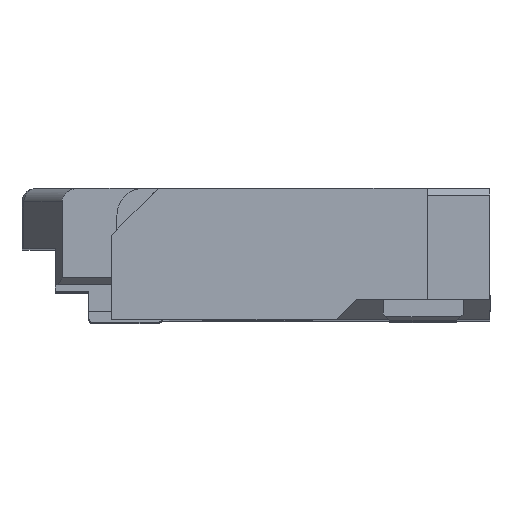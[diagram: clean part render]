
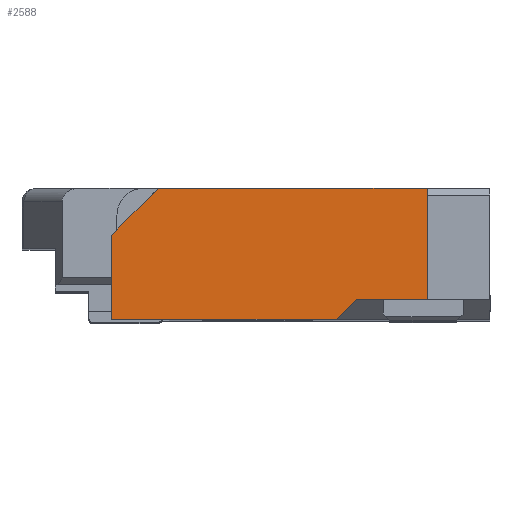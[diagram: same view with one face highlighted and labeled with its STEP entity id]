
A CAD part, top view. The second image highlights one B-rep face of the part: STEP entity #2588.
In plain terms, the highlighted planar face has unit normal (0, 0, 1).
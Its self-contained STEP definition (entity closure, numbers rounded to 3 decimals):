
#62 = VERTEX_POINT ( 'NONE', #23045 ) ;
#95 = EDGE_CURVE ( 'NONE', #62, #10895, #25779, .T. ) ;
#636 = EDGE_CURVE ( 'NONE', #23851, #62, #30288, .T. ) ;
#1067 = EDGE_CURVE ( 'NONE', #23722, #10917, #31065, .T. ) ;
#1068 = EDGE_CURVE ( 'NONE', #23722, #23638, #31067, .T. ) ;
#1069 = EDGE_CURVE ( 'NONE', #23638, #23851, #31069, .T. ) ;
#2588 = ADVANCED_FACE ( 'NONE', ( #8674 ), #12065, .F. ) ;
#8674 = FACE_OUTER_BOUND ( 'NONE', #32794, .T. ) ;
#10895 = VERTEX_POINT ( 'NONE', #16384 ) ;
#10896 = VERTEX_POINT ( 'NONE', #16385 ) ;
#10917 = VERTEX_POINT ( 'NONE', #16406 ) ;
#12065 = PLANE ( 'NONE',  #12415 ) ;
#12066 = CARTESIAN_POINT ( 'NONE',  ( 3., 0.53, 4.35 ) ) ;
#12071 = DIRECTION ( 'NONE',  ( 0., 0., -1. ) ) ;
#12072 = DIRECTION ( 'NONE',  ( -1., 0., 0. ) ) ;
#12415 = AXIS2_PLACEMENT_3D ( 'NONE', #12066, #12071, #12072 ) ;
#15066 = LINE ( 'NONE', #18823, #15069 ) ;
#15069 = VECTOR ( 'NONE', #18824, 1000. ) ;
#15112 = LINE ( 'NONE', #18869, #15115 ) ;
#15115 = VECTOR ( 'NONE', #18870, 1000. ) ;
#16384 = CARTESIAN_POINT ( 'NONE',  ( 1.85, 0.02, 4.35 ) ) ;
#16385 = CARTESIAN_POINT ( 'NONE',  ( 2., 0.17, 4.35 ) ) ;
#16406 = CARTESIAN_POINT ( 'NONE',  ( 2.53, 0.17, 4.35 ) ) ;
#17031 = CARTESIAN_POINT ( 'NONE',  ( 0.52, 1., 4.35 ) ) ;
#17096 = CARTESIAN_POINT ( 'NONE',  ( 2.53, 1., 4.35 ) ) ;
#17166 = CARTESIAN_POINT ( 'NONE',  ( 0.17, 0.65, 4.35 ) ) ;
#18823 = CARTESIAN_POINT ( 'NONE',  ( 2., 0.17, 4.35 ) ) ;
#18824 = DIRECTION ( 'NONE',  ( 0.707, 0.707, 0. ) ) ;
#18869 = CARTESIAN_POINT ( 'NONE',  ( 3., 0.17, 4.35 ) ) ;
#18870 = DIRECTION ( 'NONE',  ( -1., 0., 0. ) ) ;
#23045 = CARTESIAN_POINT ( 'NONE',  ( 0.17, 0.02, 4.35 ) ) ;
#23070 = CARTESIAN_POINT ( 'NONE',  ( 0.17, 0.02, 4.35 ) ) ;
#23078 = DIRECTION ( 'NONE',  ( 1., 0., 0. ) ) ;
#23388 = ORIENTED_EDGE ( 'NONE', *, *, #636, .T. ) ;
#23393 = ORIENTED_EDGE ( 'NONE', *, *, #27145, .F. ) ;
#23491 = ORIENTED_EDGE ( 'NONE', *, *, #95, .T. ) ;
#23520 = ORIENTED_EDGE ( 'NONE', *, *, #1069, .T. ) ;
#23571 = ORIENTED_EDGE ( 'NONE', *, *, #27122, .T. ) ;
#23638 = VERTEX_POINT ( 'NONE', #17031 ) ;
#23713 = ORIENTED_EDGE ( 'NONE', *, *, #1068, .T. ) ;
#23722 = VERTEX_POINT ( 'NONE', #17096 ) ;
#23751 = ORIENTED_EDGE ( 'NONE', *, *, #1067, .F. ) ;
#23851 = VERTEX_POINT ( 'NONE', #17166 ) ;
#25779 = LINE ( 'NONE', #23070, #25783 ) ;
#25783 = VECTOR ( 'NONE', #23078, 1000. ) ;
#27122 = EDGE_CURVE ( 'NONE', #10895, #10896, #15066, .T. ) ;
#27145 = EDGE_CURVE ( 'NONE', #10917, #10896, #15112, .T. ) ;
#29475 = CARTESIAN_POINT ( 'NONE',  ( 0.17, 0.02, 4.35 ) ) ;
#29485 = DIRECTION ( 'NONE',  ( 0., -1., 0. ) ) ;
#30288 = LINE ( 'NONE', #29475, #30293 ) ;
#30293 = VECTOR ( 'NONE', #29485, 1000. ) ;
#31065 = LINE ( 'NONE', #31591, #31068 ) ;
#31067 = LINE ( 'NONE', #31595, #31070 ) ;
#31068 = VECTOR ( 'NONE', #31593, 1000. ) ;
#31069 = LINE ( 'NONE', #31600, #31072 ) ;
#31070 = VECTOR ( 'NONE', #31598, 1000. ) ;
#31072 = VECTOR ( 'NONE', #31602, 1000. ) ;
#31591 = CARTESIAN_POINT ( 'NONE',  ( 2.53, 1., 4.35 ) ) ;
#31593 = DIRECTION ( 'NONE',  ( 0., -1., 0. ) ) ;
#31595 = CARTESIAN_POINT ( 'NONE',  ( 1.2, 1., 4.35 ) ) ;
#31598 = DIRECTION ( 'NONE',  ( -1., 0., 0. ) ) ;
#31600 = CARTESIAN_POINT ( 'NONE',  ( 0.52, 1., 4.35 ) ) ;
#31602 = DIRECTION ( 'NONE',  ( -0.707, -0.707, 0. ) ) ;
#32794 = EDGE_LOOP ( 'NONE', ( #23751, #23713, #23520, #23388, #23491, #23571, #23393 ) ) ;
